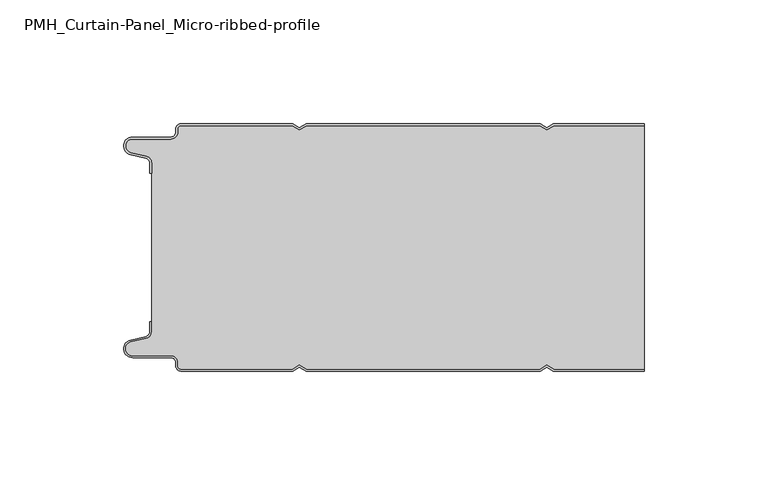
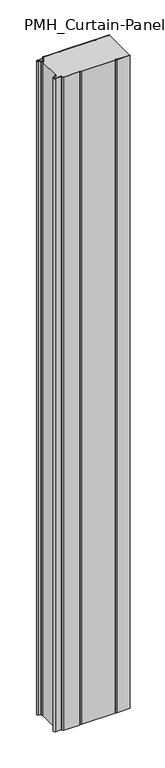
"""IFC4 building model written with IfcOpenShell, lengths in millimetres: plate geometry, PMH_Curtain-Panel_Micro-ribbed-profile : ACH_PMH_Stone-wool-Panel_100M."""

from ifc_helpers import new_model, si_unit, point, frame_2d, origin, origin_with_axes, place, context, project, spatial, polyline, circle_curve, trimmed, segment, composite_curve, outline, extrude, source, transform, mapped, element, save


def pmh_curtain_panel_micro_ribbed_profile_125e0a23(model_context):
    return source(origin(), model_context, "Body", "SweptSolid", [
        extrude(outline(composite_curve([segment(trimmed(circle_curve(frame_2d((-102.0119739, -15.878557)), 2.0), [point((-100.0119739, -15.878557))], [point((-101.5620718, -13.9298169))], True, "CARTESIAN"), True, "CONTINUOUS"), segment(polyline([(-101.5620718, -13.9298169), (-107.7217978, -12.507732)]), True, "CONTINUOUS"), segment(trimmed(circle_curve(frame_2d((-106.9119739, -9.0)), 3.6), [point((-107.7217978, -12.507732))], [point((-106.9119739, -5.4))], False, "CARTESIAN"), True, "CONTINUOUS"), segment(polyline([(-106.9119739, -5.4), (-91.4119739, -5.4)]), True, "CONTINUOUS"), segment(trimmed(circle_curve(frame_2d((-91.4119739, -3.4)), 2.0), [point((-91.4119739, -5.4))], [point((-89.4119739, -3.4))], True, "CARTESIAN"), True, "CONTINUOUS"), segment(polyline([(-89.4119739, -3.4), (-89.4119739, -2.0)]), True, "CONTINUOUS"), segment(trimmed(circle_curve(frame_2d((-87.4119739, -2.0)), 2.0), [point((-89.4119739, -2.0))], [point((-87.4119739, 0.0))], False, "CARTESIAN"), True, "CONTINUOUS"), segment(polyline([(-87.4119739, 0.0), (-42.1119734, 0.0), (-39.4119739, -1.5588455), (-36.7119745, 0.0), (57.8880266, 0.0), (60.5880261, -1.5588455), (63.2880255, 0.0), (100.0119739, 0.0), (100.0119739, -0.8), (63.5023849, -0.8), (60.5880261, -2.482606), (57.6736672, -0.8), (-36.4976151, -0.8), (-39.4119739, -2.482606), (-42.3263328, -0.8), (-87.4119739, -0.8)]), True, "CONTINUOUS"), segment(trimmed(circle_curve(frame_2d((-87.4119739, -2.0)), 1.2), [point((-87.4119739, -0.8))], [point((-88.6119739, -2.0))], True, "CARTESIAN"), True, "CONTINUOUS"), segment(polyline([(-88.6119739, -2.0), (-88.6119739, -3.4)]), True, "CONTINUOUS"), segment(trimmed(circle_curve(frame_2d((-91.4119739, -3.4)), 2.8), [point((-88.6119739, -3.4))], [point((-91.4119739, -6.2))], False, "CARTESIAN"), True, "CONTINUOUS"), segment(polyline([(-91.4119739, -6.2), (-106.9119739, -6.2)]), True, "CONTINUOUS"), segment(trimmed(circle_curve(frame_2d((-106.9119739, -9.0)), 2.8), [point((-106.9119739, -6.2))], [point((-107.541837, -11.7282362))], True, "CARTESIAN"), True, "CONTINUOUS"), segment(polyline([(-107.541837, -11.7282362), (-101.3821109, -13.150321)]), True, "CONTINUOUS"), segment(trimmed(circle_curve(frame_2d((-102.0119739, -15.878557)), 2.8), [point((-101.3821109, -13.150321))], [point((-99.2119739, -15.878557))], False, "CARTESIAN"), True, "CONTINUOUS"), segment(polyline([(-99.2119739, -15.878557), (-99.2119739, -20.0), (-100.0119739, -20.0), (-100.0119739, -15.878557)]), True, "CONTINUOUS")], self_intersect=False)), origin_with_axes(), (0.0, 0.0, 1.0), 1945.7507136),
        extrude(outline(composite_curve([segment(polyline([(-99.2119739, -84.1214426), (-99.2119739, -15.8785573)]), True, "CONTINUOUS"), segment(trimmed(circle_curve(frame_2d((-102.0119739, -15.8785573)), 2.8), [point((-99.2119739, -15.8785573))], [point((-101.3821109, -13.1503212))], True, "CARTESIAN"), True, "CONTINUOUS"), segment(polyline([(-101.3821109, -13.1503212), (-107.541837, -11.7282362)]), True, "CONTINUOUS"), segment(trimmed(circle_curve(frame_2d((-106.911974, -9.0)), 2.8), [point((-107.541837, -11.7282362))], [point((-106.911974, -6.2))], False, "CARTESIAN"), True, "CONTINUOUS"), segment(polyline([(-106.911974, -6.2), (-91.411974, -6.2)]), True, "CONTINUOUS"), segment(trimmed(circle_curve(frame_2d((-91.411974, -3.4)), 2.8), [point((-91.411974, -6.2))], [point((-88.611974, -3.4))], True, "CARTESIAN"), True, "CONTINUOUS"), segment(polyline([(-88.611974, -3.4), (-88.611974, -2.0)]), True, "CONTINUOUS"), segment(trimmed(circle_curve(frame_2d((-87.411974, -2.0)), 1.2), [point((-88.611974, -2.0))], [point((-87.411974, -0.8))], False, "CARTESIAN"), True, "CONTINUOUS"), segment(polyline([(-87.411974, -0.8), (-42.3263329, -0.8), (-39.411974, -2.482606), (-36.4976152, -0.8), (57.6736671, -0.8), (60.588026, -2.482606), (63.5023848, -0.8), (100.0119739, -0.8), (100.0119739, -99.2), (63.5023848, -99.2), (60.588026, -97.517394), (57.6736671, -99.2), (-36.4976152, -99.2), (-39.411974, -97.517394), (-42.3263329, -99.2), (-87.411974, -99.2)]), True, "CONTINUOUS"), segment(trimmed(circle_curve(frame_2d((-87.411974, -98.0)), 1.2), [point((-87.411974, -99.2))], [point((-88.611974, -98.0))], False, "CARTESIAN"), True, "CONTINUOUS"), segment(polyline([(-88.611974, -98.0), (-88.611974, -96.6)]), True, "CONTINUOUS"), segment(trimmed(circle_curve(frame_2d((-91.411974, -96.6)), 2.8), [point((-88.611974, -96.6))], [point((-91.411974, -93.8))], True, "CARTESIAN"), True, "CONTINUOUS"), segment(polyline([(-91.411974, -93.8), (-106.911974, -93.8)]), True, "CONTINUOUS"), segment(trimmed(circle_curve(frame_2d((-106.911974, -91.0)), 2.8), [point((-106.911974, -93.8))], [point((-107.541837, -88.2717638))], False, "CARTESIAN"), True, "CONTINUOUS"), segment(polyline([(-107.541837, -88.2717638), (-101.3821109, -86.8496788)]), True, "CONTINUOUS"), segment(trimmed(circle_curve(frame_2d((-102.0119739, -84.1214426)), 2.8), [point((-101.3821109, -86.8496788))], [point((-99.2119739, -84.1214426))], True, "CARTESIAN"), True, "CONTINUOUS")], self_intersect=False)), origin_with_axes(), (0.0, 0.0, 1.0), 1945.7507136),
        extrude(outline(composite_curve([segment(polyline([(-100.0119739, -84.121443), (-100.0119739, -80.0), (-99.2119739, -80.0), (-99.2119739, -84.121443)]), True, "CONTINUOUS"), segment(trimmed(circle_curve(frame_2d((-102.0119739, -84.121443)), 2.8), [point((-99.2119739, -84.121443))], [point((-101.3821109, -86.8496792))], False, "CARTESIAN"), True, "CONTINUOUS"), segment(polyline([(-101.3821109, -86.8496792), (-107.5418369, -88.271764)]), True, "CONTINUOUS"), segment(trimmed(circle_curve(frame_2d((-106.9119739, -91.0)), 2.8), [point((-107.5418369, -88.271764))], [point((-106.9119739, -93.8))], True, "CARTESIAN"), True, "CONTINUOUS"), segment(polyline([(-106.9119739, -93.8), (-91.4119739, -93.8)]), True, "CONTINUOUS"), segment(trimmed(circle_curve(frame_2d((-91.4119739, -96.6)), 2.8), [point((-91.4119739, -93.8))], [point((-88.6119739, -96.6))], False, "CARTESIAN"), True, "CONTINUOUS"), segment(polyline([(-88.6119739, -96.6), (-88.6119739, -98.0)]), True, "CONTINUOUS"), segment(trimmed(circle_curve(frame_2d((-87.4119739, -98.0)), 1.2), [point((-88.6119739, -98.0))], [point((-87.4119739, -99.2))], True, "CARTESIAN"), True, "CONTINUOUS"), segment(polyline([(-87.4119739, -99.2), (-42.3263328, -99.2), (-39.4119739, -97.517394), (-36.4976151, -99.2), (57.6736672, -99.2), (60.5880261, -97.517394), (63.5023849, -99.2), (100.0119739, -99.2), (100.0119739, -100.0), (63.2880255, -100.0), (60.5880261, -98.4411545), (57.8880266, -100.0), (-36.7119745, -100.0), (-39.4119739, -98.4411545), (-42.1119734, -100.0), (-87.4119739, -100.0)]), True, "CONTINUOUS"), segment(trimmed(circle_curve(frame_2d((-87.4119739, -98.0)), 2.0), [point((-87.4119739, -100.0))], [point((-89.4119739, -98.0))], False, "CARTESIAN"), True, "CONTINUOUS"), segment(polyline([(-89.4119739, -98.0), (-89.4119739, -96.6)]), True, "CONTINUOUS"), segment(trimmed(circle_curve(frame_2d((-91.4119739, -96.6)), 2.0), [point((-89.4119739, -96.6))], [point((-91.4119739, -94.6))], True, "CARTESIAN"), True, "CONTINUOUS"), segment(polyline([(-91.4119739, -94.6), (-106.9119739, -94.6)]), True, "CONTINUOUS"), segment(trimmed(circle_curve(frame_2d((-106.9119739, -91.0)), 3.6), [point((-106.9119739, -94.6))], [point((-107.7217979, -87.4922678))], False, "CARTESIAN"), True, "CONTINUOUS"), segment(polyline([(-107.7217979, -87.4922678), (-101.5620718, -86.070183)]), True, "CONTINUOUS"), segment(trimmed(circle_curve(frame_2d((-102.0119739, -84.121443)), 2.0), [point((-101.5620718, -86.070183))], [point((-100.0119739, -84.121443))], True, "CARTESIAN"), True, "CONTINUOUS")], self_intersect=False)), origin_with_axes(), (0.0, 0.0, 1.0), 1945.7507136),
    ])


if __name__ == "__main__":
    model = new_model("IFC4")
    model_context = context("Model", 3, world=origin())
    ifc_project = project(units=[si_unit("LENGTHUNIT", "METRE", prefix="MILLI")], contexts=[model_context])
    site = spatial("IfcSite", under=ifc_project)
    building = spatial("IfcBuilding", under=site)
    placement = place(None, origin())
    pmh_curtain_panel_micro_ribbed_profile_shape = pmh_curtain_panel_micro_ribbed_profile_125e0a23(model_context)
    element("IfcPlate", 1, ObjectType="PMH_Curtain-Panel_Micro-ribbed-profile : ACH_PMH_Stone-wool-Panel_100M", at=placement, inside=building, context=model_context, shape_type="MappedRepresentation", body=[
        mapped(pmh_curtain_panel_micro_ribbed_profile_shape, transform((0.0, 0.0, 0.0), x_axis=(1.0, 0.0, 0.0), y_axis=(0.0, 1.0, 0.0), z_axis=(0.0, 0.0, 1.0))),
    ])
    save(model, "model.ifc")
